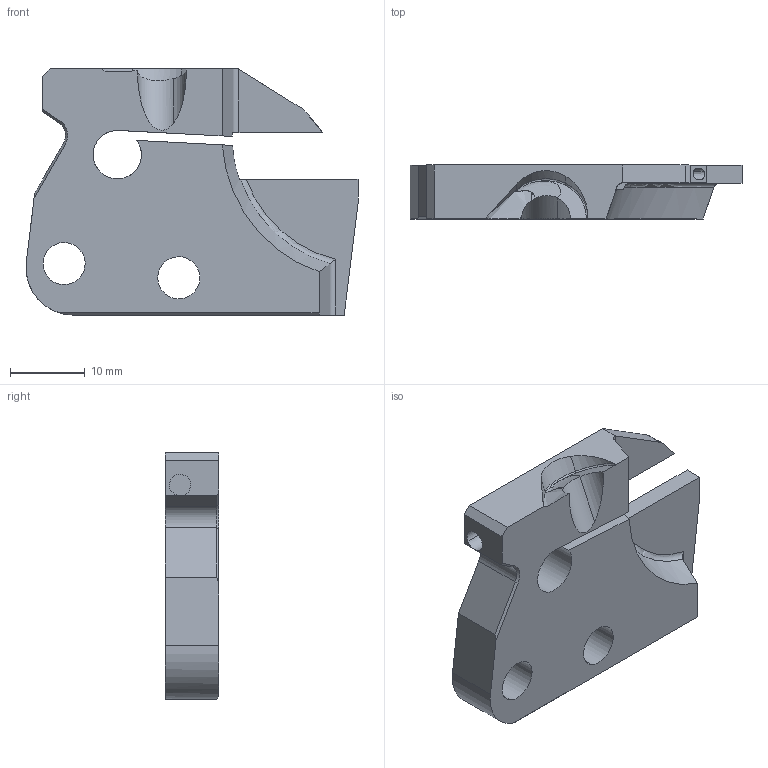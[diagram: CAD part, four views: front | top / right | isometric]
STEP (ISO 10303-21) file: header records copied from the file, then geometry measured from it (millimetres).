
FILE_DESCRIPTION(('CATIA V5 STEP','CAx-IF Rec.Pracs.--- Model Styling and Organization---1.2---2011-12-15'),'2;1');
FILE_NAME('\\nas01\drv1\utils\eitdev\rte\eit\transmagicconvert\db\out\2393883-D-M_STP.stp','2014-09-29T08:01:26+00:00',('none'),('none'),'CATIA Version 5 Release 21 SP 5 (IN-10)','CATIA V5 STEP AP214','none');
FILE_SCHEMA(('AUTOMOTIVE_DESIGN { 1 0 10303 214 1 1 1 1 }'));
Length unit declared in the file: millimetre
Products named in the file (1): DGPAD 3R-D32-JHP
Bounding box: 44.49 x 7.2 x 33 mm (x, y, z)
Volume: 6646.4 mm3; surface area: 3819.1 mm2
Topology: 1 solids, 1 shells, 65 faces, 181 edges, 121 vertices
Faces by surface type: plane 37, cylinder 16, torus 4, extrusion 3, cone 3, bspline 2
Entity records: 2577 total; most frequent: CARTESIAN_POINT 975, ORIENTED_EDGE 362, DIRECTION 258, EDGE_CURVE 181, VERTEX_POINT 121, VECTOR 110, LINE 107, AXIS2_PLACEMENT_3D 94
